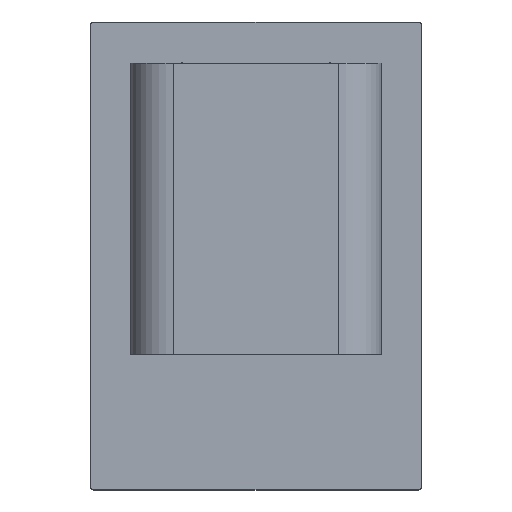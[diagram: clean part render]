
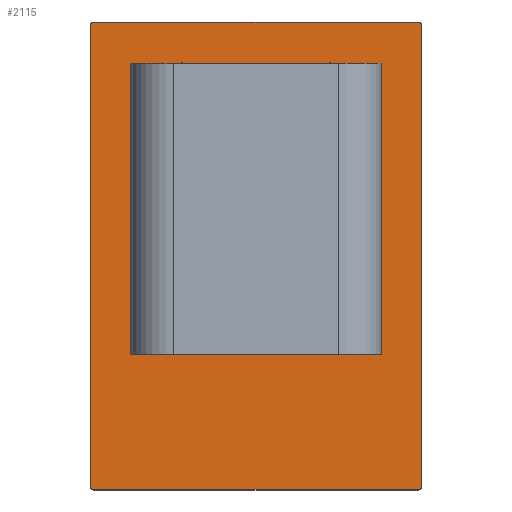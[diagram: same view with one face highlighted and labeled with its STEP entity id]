
A CAD part, top view. The second image highlights one B-rep face of the part: STEP entity #2115.
In plain terms, the highlighted planar face has unit normal (0, 0, 1).
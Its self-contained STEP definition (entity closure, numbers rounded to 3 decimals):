
#1 = EDGE_CURVE ( 'NONE', #1537, #1576, #3154, .T. ) ;
#24 = AXIS2_PLACEMENT_3D ( 'NONE', #1488, #744, #187 ) ;
#44 = CARTESIAN_POINT ( 'NONE',  ( -120., 170., 2.5 ) ) ;
#82 = EDGE_CURVE ( 'NONE', #1945, #2620, #499, .T. ) ;
#117 = VECTOR ( 'NONE', #264, 1000. ) ;
#183 = VERTEX_POINT ( 'NONE', #2427 ) ;
#187 = DIRECTION ( 'NONE',  ( 0., -1., 0. ) ) ;
#234 = DIRECTION ( 'NONE',  ( 0., -1., 0. ) ) ;
#264 = DIRECTION ( 'NONE',  ( 1., 0., 0. ) ) ;
#342 = VERTEX_POINT ( 'NONE', #1006 ) ;
#367 = DIRECTION ( 'NONE',  ( 0., 0., 1. ) ) ;
#392 = CIRCLE ( 'NONE', #973, 2. ) ;
#423 = ORIENTED_EDGE ( 'NONE', *, *, #2923, .T. ) ;
#498 = CARTESIAN_POINT ( 'NONE',  ( 0., 35., 2.5 ) ) ;
#499 = LINE ( 'NONE', #2126, #2957 ) ;
#518 = CIRCLE ( 'NONE', #1807, 2. ) ;
#567 = DIRECTION ( 'NONE',  ( -1., 0., 0. ) ) ;
#642 = CIRCLE ( 'NONE', #2924, 51. ) ;
#678 = ORIENTED_EDGE ( 'NONE', *, *, #82, .T. ) ;
#703 = FACE_OUTER_BOUND ( 'NONE', #1256, .T. ) ;
#717 = EDGE_LOOP ( 'NONE', ( #2967, #2178 ) ) ;
#729 = EDGE_CURVE ( 'NONE', #2340, #342, #3061, .T. ) ;
#744 = DIRECTION ( 'NONE',  ( 0., 0., 1. ) ) ;
#757 = ORIENTED_EDGE ( 'NONE', *, *, #2035, .T. ) ;
#820 = LINE ( 'NONE', #1326, #117 ) ;
#838 = DIRECTION ( 'NONE',  ( 0., -1., 0. ) ) ;
#860 = EDGE_CURVE ( 'NONE', #342, #1294, #820, .T. ) ;
#926 = AXIS2_PLACEMENT_3D ( 'NONE', #1808, #3051, #3070 ) ;
#958 = EDGE_CURVE ( 'NONE', #1707, #183, #3139, .T. ) ;
#973 = AXIS2_PLACEMENT_3D ( 'NONE', #2136, #3102, #838 ) ;
#995 = DIRECTION ( 'NONE',  ( 0., 0., 1. ) ) ;
#1006 = CARTESIAN_POINT ( 'NONE',  ( -118., -170., 2.5 ) ) ;
#1138 = VECTOR ( 'NONE', #567, 1000. ) ;
#1152 = DIRECTION ( 'NONE',  ( 0., -1., 0. ) ) ;
#1246 = PLANE ( 'NONE',  #926 ) ;
#1256 = EDGE_LOOP ( 'NONE', ( #1499, #2057, #678, #423, #2300, #1382, #757, #2116 ) ) ;
#1268 = DIRECTION ( 'NONE',  ( 0., -1., 0. ) ) ;
#1272 = CIRCLE ( 'NONE', #3085, 2. ) ;
#1294 = VERTEX_POINT ( 'NONE', #1559 ) ;
#1321 = CARTESIAN_POINT ( 'NONE',  ( -120., -168., 2.5 ) ) ;
#1326 = CARTESIAN_POINT ( 'NONE',  ( -120., -170., 2.5 ) ) ;
#1382 = ORIENTED_EDGE ( 'NONE', *, *, #2656, .T. ) ;
#1436 = CARTESIAN_POINT ( 'NONE',  ( -118., 170., 2.5 ) ) ;
#1456 = VECTOR ( 'NONE', #2749, 1000. ) ;
#1488 = CARTESIAN_POINT ( 'NONE',  ( -118., -168., 2.5 ) ) ;
#1499 = ORIENTED_EDGE ( 'NONE', *, *, #860, .T. ) ;
#1512 = EDGE_CURVE ( 'NONE', #1294, #1945, #518, .T. ) ;
#1537 = VERTEX_POINT ( 'NONE', #1927 ) ;
#1559 = CARTESIAN_POINT ( 'NONE',  ( 118., -170., 2.5 ) ) ;
#1576 = VERTEX_POINT ( 'NONE', #1436 ) ;
#1649 = FACE_BOUND ( 'NONE', #717, .T. ) ;
#1653 = LINE ( 'NONE', #3241, #1456 ) ;
#1707 = VERTEX_POINT ( 'NONE', #2239 ) ;
#1715 = CARTESIAN_POINT ( 'NONE',  ( 120., -168., 2.5 ) ) ;
#1807 = AXIS2_PLACEMENT_3D ( 'NONE', #3138, #2651, #1152 ) ;
#1808 = CARTESIAN_POINT ( 'NONE',  ( 0., 0., 2.5 ) ) ;
#1881 = CARTESIAN_POINT ( 'NONE',  ( -120., 168., 2.5 ) ) ;
#1927 = CARTESIAN_POINT ( 'NONE',  ( 118., 170., 2.5 ) ) ;
#1945 = VERTEX_POINT ( 'NONE', #1715 ) ;
#1993 = CARTESIAN_POINT ( 'NONE',  ( 120., 168., 2.5 ) ) ;
#2035 = EDGE_CURVE ( 'NONE', #2368, #2340, #1653, .T. ) ;
#2057 = ORIENTED_EDGE ( 'NONE', *, *, #1512, .T. ) ;
#2115 = ADVANCED_FACE ( 'NONE', ( #1649, #703 ), #1246, .T. ) ;
#2116 = ORIENTED_EDGE ( 'NONE', *, *, #729, .T. ) ;
#2126 = CARTESIAN_POINT ( 'NONE',  ( 120., 170., 2.5 ) ) ;
#2136 = CARTESIAN_POINT ( 'NONE',  ( 118., 168., 2.5 ) ) ;
#2152 = DIRECTION ( 'NONE',  ( 0., -1., 0. ) ) ;
#2178 = ORIENTED_EDGE ( 'NONE', *, *, #958, .F. ) ;
#2239 = CARTESIAN_POINT ( 'NONE',  ( 0., 86., 2.5 ) ) ;
#2286 = AXIS2_PLACEMENT_3D ( 'NONE', #3142, #367, #2152 ) ;
#2300 = ORIENTED_EDGE ( 'NONE', *, *, #1, .T. ) ;
#2340 = VERTEX_POINT ( 'NONE', #1321 ) ;
#2368 = VERTEX_POINT ( 'NONE', #1881 ) ;
#2427 = CARTESIAN_POINT ( 'NONE',  ( 0., -16., 2.5 ) ) ;
#2620 = VERTEX_POINT ( 'NONE', #1993 ) ;
#2651 = DIRECTION ( 'NONE',  ( 0., 0., 1. ) ) ;
#2656 = EDGE_CURVE ( 'NONE', #1576, #2368, #1272, .T. ) ;
#2715 = EDGE_CURVE ( 'NONE', #183, #1707, #642, .T. ) ;
#2749 = DIRECTION ( 'NONE',  ( 0., -1., 0. ) ) ;
#2873 = DIRECTION ( 'NONE',  ( 0., 1., 0. ) ) ;
#2923 = EDGE_CURVE ( 'NONE', #2620, #1537, #392, .T. ) ;
#2924 = AXIS2_PLACEMENT_3D ( 'NONE', #498, #3026, #1268 ) ;
#2957 = VECTOR ( 'NONE', #2873, 1000. ) ;
#2967 = ORIENTED_EDGE ( 'NONE', *, *, #2715, .F. ) ;
#3026 = DIRECTION ( 'NONE',  ( 0., 0., 1. ) ) ;
#3051 = DIRECTION ( 'NONE',  ( 0., 0., 1. ) ) ;
#3061 = CIRCLE ( 'NONE', #24, 2. ) ;
#3070 = DIRECTION ( 'NONE',  ( 0., -1., 0. ) ) ;
#3085 = AXIS2_PLACEMENT_3D ( 'NONE', #3288, #995, #234 ) ;
#3102 = DIRECTION ( 'NONE',  ( 0., 0., 1. ) ) ;
#3138 = CARTESIAN_POINT ( 'NONE',  ( 118., -168., 2.5 ) ) ;
#3139 = CIRCLE ( 'NONE', #2286, 51. ) ;
#3142 = CARTESIAN_POINT ( 'NONE',  ( 0., 35., 2.5 ) ) ;
#3154 = LINE ( 'NONE', #44, #1138 ) ;
#3241 = CARTESIAN_POINT ( 'NONE',  ( -120., 170., 2.5 ) ) ;
#3288 = CARTESIAN_POINT ( 'NONE',  ( -118., 168., 2.5 ) ) ;
